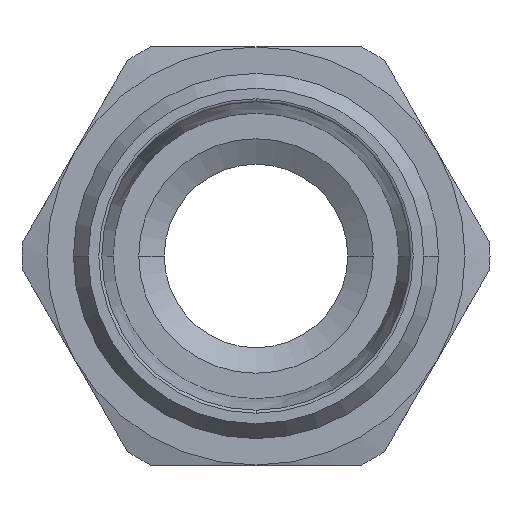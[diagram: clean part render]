
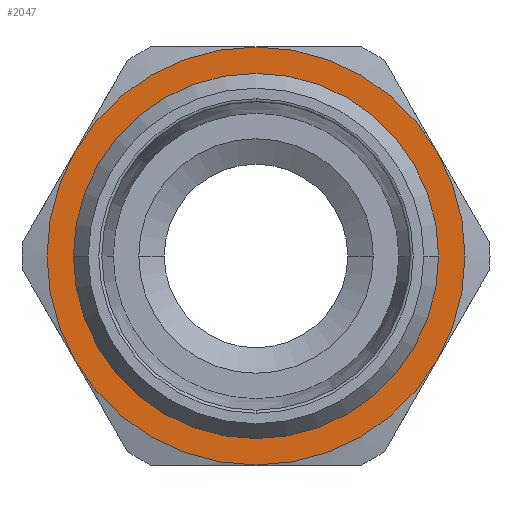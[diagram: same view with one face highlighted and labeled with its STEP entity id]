
A CAD part, left-side view. The second image highlights one B-rep face of the part: STEP entity #2047.
In plain terms, the highlighted planar face has unit normal (-1, 0, 0) as drawn and (0, 0, 1) by its records, which use the part's own axes.
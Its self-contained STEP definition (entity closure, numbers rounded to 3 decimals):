
#857=CARTESIAN_POINT('',(-17.65,0.,4.0));
#858=VERTEX_POINT('',#857);
#884=CARTESIAN_POINT('',(17.65,0.,4.0));
#885=VERTEX_POINT('',#884);
#893=CARTESIAN_POINT('',(0.,0.,4.0));
#894=DIRECTION('',(0.0,0.0,1.0));
#895=DIRECTION('',(-1.0,0.0,0.0));
#896=AXIS2_PLACEMENT_3D('',#893,#894,#895);
#897=CIRCLE('',#896,17.65);
#898=EDGE_CURVE('',#885,#858,#897,.T.);
#1927=CARTESIAN_POINT('',(0.,-17.65,4.));
#1928=VERTEX_POINT('',#1927);
#1929=CARTESIAN_POINT('',(0.,0.,4.0));
#1930=DIRECTION('',(0.0,0.0,1.0));
#1931=DIRECTION('',(-1.0,0.0,0.0));
#1932=AXIS2_PLACEMENT_3D('',#1929,#1930,#1931);
#1933=CIRCLE('',#1932,17.65);
#1934=EDGE_CURVE('',#858,#1928,#1933,.T.);
#1936=CARTESIAN_POINT('',(0.,0.,4.0));
#1937=DIRECTION('',(0.0,0.0,1.0));
#1938=DIRECTION('',(-1.0,0.0,0.0));
#1939=AXIS2_PLACEMENT_3D('',#1936,#1937,#1938);
#1940=CIRCLE('',#1939,17.65);
#1941=EDGE_CURVE('',#1928,#885,#1940,.T.);
#1981=CARTESIAN_POINT('',(0.0,0.,4.0));
#1982=DIRECTION('',(0.0,0.0,1.0));
#1983=DIRECTION('',(1.0,0.0,0.0));
#1984=AXIS2_PLACEMENT_3D('',#1981,#1982,#1983);
#1985=PLANE('',#1984);
#1986=CARTESIAN_POINT('',(10.25,-17.754,4.0));
#1987=VERTEX_POINT('',#1986);
#1988=CARTESIAN_POINT('',(20.5,0.0,4.0));
#1989=VERTEX_POINT('',#1988);
#1990=CARTESIAN_POINT('',(0.,0.0,4.0));
#1991=DIRECTION('',(0.0,0.0,1.0));
#1992=DIRECTION('',(1.0,0.0,0.0));
#1993=AXIS2_PLACEMENT_3D('',#1990,#1991,#1992);
#1994=CIRCLE('',#1993,20.5);
#1995=EDGE_CURVE('',#1987,#1989,#1994,.T.);
#1996=ORIENTED_EDGE('',*,*,#1995,.T.);
#1997=CARTESIAN_POINT('',(10.25,17.754,4.0));
#1998=VERTEX_POINT('',#1997);
#1999=CARTESIAN_POINT('',(0.,0.0,4.0));
#2000=DIRECTION('',(0.0,0.0,1.0));
#2001=DIRECTION('',(1.0,0.0,0.0));
#2002=AXIS2_PLACEMENT_3D('',#1999,#2000,#2001);
#2003=CIRCLE('',#2002,20.5);
#2004=EDGE_CURVE('',#1989,#1998,#2003,.T.);
#2005=ORIENTED_EDGE('',*,*,#2004,.T.);
#2006=CARTESIAN_POINT('',(-10.25,17.754,4.0));
#2007=VERTEX_POINT('',#2006);
#2008=CARTESIAN_POINT('',(0.,0.0,4.0));
#2009=DIRECTION('',(0.0,0.0,1.0));
#2010=DIRECTION('',(1.0,0.0,0.0));
#2011=AXIS2_PLACEMENT_3D('',#2008,#2009,#2010);
#2012=CIRCLE('',#2011,20.5);
#2013=EDGE_CURVE('',#1998,#2007,#2012,.T.);
#2014=ORIENTED_EDGE('',*,*,#2013,.T.);
#2015=CARTESIAN_POINT('',(-20.5,0.,4.0));
#2016=VERTEX_POINT('',#2015);
#2017=CARTESIAN_POINT('',(0.,0.0,4.0));
#2018=DIRECTION('',(0.0,0.0,1.0));
#2019=DIRECTION('',(1.0,0.0,0.0));
#2020=AXIS2_PLACEMENT_3D('',#2017,#2018,#2019);
#2021=CIRCLE('',#2020,20.5);
#2022=EDGE_CURVE('',#2007,#2016,#2021,.T.);
#2023=ORIENTED_EDGE('',*,*,#2022,.T.);
#2024=CARTESIAN_POINT('',(-10.25,-17.754,4.0));
#2025=VERTEX_POINT('',#2024);
#2026=CARTESIAN_POINT('',(0.,0.0,4.0));
#2027=DIRECTION('',(0.0,0.0,1.0));
#2028=DIRECTION('',(1.0,0.0,0.0));
#2029=AXIS2_PLACEMENT_3D('',#2026,#2027,#2028);
#2030=CIRCLE('',#2029,20.5);
#2031=EDGE_CURVE('',#2016,#2025,#2030,.T.);
#2032=ORIENTED_EDGE('',*,*,#2031,.T.);
#2033=CARTESIAN_POINT('',(0.,0.0,4.0));
#2034=DIRECTION('',(0.0,0.0,1.0));
#2035=DIRECTION('',(1.0,0.0,0.0));
#2036=AXIS2_PLACEMENT_3D('',#2033,#2034,#2035);
#2037=CIRCLE('',#2036,20.5);
#2038=EDGE_CURVE('',#2025,#1987,#2037,.T.);
#2039=ORIENTED_EDGE('',*,*,#2038,.T.);
#2040=EDGE_LOOP('',(#1996,#2005,#2014,#2023,#2032,#2039));
#2041=FACE_OUTER_BOUND('',#2040,.T.);
#2042=ORIENTED_EDGE('',*,*,#1941,.F.);
#2043=ORIENTED_EDGE('',*,*,#1934,.F.);
#2044=ORIENTED_EDGE('',*,*,#898,.F.);
#2045=EDGE_LOOP('',(#2042,#2043,#2044));
#2046=FACE_BOUND('',#2045,.T.);
#2047=ADVANCED_FACE('',(#2041,#2046),#1985,.T.);
